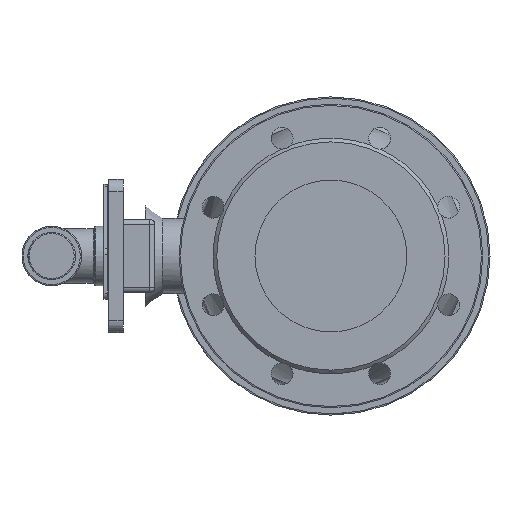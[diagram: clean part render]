
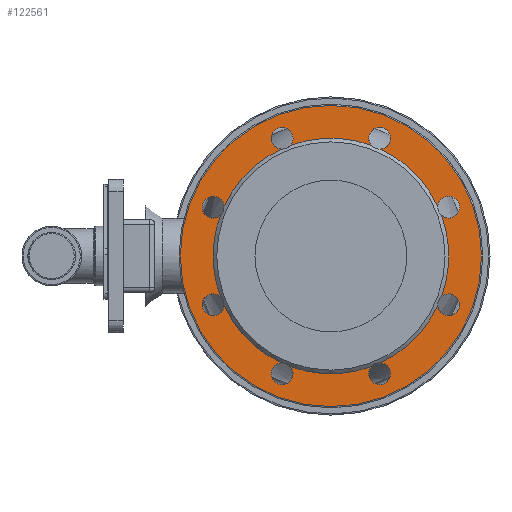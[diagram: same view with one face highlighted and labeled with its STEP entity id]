
A CAD part, left-side view. The second image highlights one B-rep face of the part: STEP entity #122561.
In plain terms, the highlighted planar face has unit normal (-1, 0, 0).
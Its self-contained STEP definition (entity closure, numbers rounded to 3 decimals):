
#122395=CARTESIAN_POINT('',(-150.0,-124.,0.));
#122396=VERTEX_POINT('',#122395);
#122397=CARTESIAN_POINT('',(-150.,0.,0.0));
#122398=DIRECTION('',(1.0,0.0,0.0));
#122399=DIRECTION('',(0.0,1.0,0.0));
#122400=AXIS2_PLACEMENT_3D('',#122397,#122398,#122399);
#122401=CIRCLE('',#122400,124.);
#122402=EDGE_CURVE('',#122396,#122396,#122401,.T.);
#122407=CARTESIAN_POINT('',(-150.0,-111.,0.0));
#122408=DIRECTION('',(-1.0,0.0,0.0));
#122409=DIRECTION('',(0.0,0.0,1.0));
#122410=AXIS2_PLACEMENT_3D('',#122407,#122408,#122409);
#122411=PLANE('',#122410);
#122412=ORIENTED_EDGE('',*,*,#122402,.F.);
#122413=EDGE_LOOP('',(#122412));
#122414=FACE_OUTER_BOUND('',#122413,.T.);
#122415=CARTESIAN_POINT('',(-150.,88.025,-40.75));
#122416=VERTEX_POINT('',#122415);
#122417=CARTESIAN_POINT('',(-150.,91.058,-33.429));
#122418=VERTEX_POINT('',#122417);
#122419=CARTESIAN_POINT('',(-150.,97.007,-40.182));
#122420=DIRECTION('',(1.0,0.0,0.0));
#122421=DIRECTION('',(0.0,0.0,-1.0));
#122422=AXIS2_PLACEMENT_3D('',#122419,#122420,#122421);
#122423=CIRCLE('',#122422,9.0);
#122424=EDGE_CURVE('',#122416,#122418,#122423,.T.);
#122425=ORIENTED_EDGE('',*,*,#122424,.T.);
#122426=CARTESIAN_POINT('',(-150.,91.058,33.429));
#122427=VERTEX_POINT('',#122426);
#122428=CARTESIAN_POINT('',(-150.,0.,0.0));
#122429=DIRECTION('',(-1.0,0.0,0.0));
#122430=DIRECTION('',(0.0,-1.0,0.0));
#122431=AXIS2_PLACEMENT_3D('',#122428,#122429,#122430);
#122432=CIRCLE('',#122431,97.);
#122433=EDGE_CURVE('',#122427,#122418,#122432,.T.);
#122434=ORIENTED_EDGE('',*,*,#122433,.F.);
#122435=CARTESIAN_POINT('',(-150.,88.025,40.75));
#122436=VERTEX_POINT('',#122435);
#122437=CARTESIAN_POINT('',(-150.,97.007,40.182));
#122438=DIRECTION('',(1.0,0.0,0.0));
#122439=DIRECTION('',(0.0,0.0,-1.0));
#122440=AXIS2_PLACEMENT_3D('',#122437,#122438,#122439);
#122441=CIRCLE('',#122440,9.0);
#122442=EDGE_CURVE('',#122427,#122436,#122441,.T.);
#122443=ORIENTED_EDGE('',*,*,#122442,.T.);
#122444=CARTESIAN_POINT('',(-150.,40.75,88.025));
#122445=VERTEX_POINT('',#122444);
#122446=CARTESIAN_POINT('',(-150.,0.,0.0));
#122447=DIRECTION('',(-1.0,0.0,0.0));
#122448=DIRECTION('',(0.0,-1.0,0.0));
#122449=AXIS2_PLACEMENT_3D('',#122446,#122447,#122448);
#122450=CIRCLE('',#122449,97.);
#122451=EDGE_CURVE('',#122445,#122436,#122450,.T.);
#122452=ORIENTED_EDGE('',*,*,#122451,.F.);
#122453=CARTESIAN_POINT('',(-150.,33.429,91.058));
#122454=VERTEX_POINT('',#122453);
#122455=CARTESIAN_POINT('',(-150.,40.182,97.007));
#122456=DIRECTION('',(1.0,0.0,0.0));
#122457=DIRECTION('',(0.0,0.0,-1.0));
#122458=AXIS2_PLACEMENT_3D('',#122455,#122456,#122457);
#122459=CIRCLE('',#122458,9.0);
#122460=EDGE_CURVE('',#122445,#122454,#122459,.T.);
#122461=ORIENTED_EDGE('',*,*,#122460,.T.);
#122462=CARTESIAN_POINT('',(-150.,-33.429,91.058));
#122463=VERTEX_POINT('',#122462);
#122464=CARTESIAN_POINT('',(-150.,0.,0.0));
#122465=DIRECTION('',(-1.0,0.0,0.0));
#122466=DIRECTION('',(0.0,-1.0,0.0));
#122467=AXIS2_PLACEMENT_3D('',#122464,#122465,#122466);
#122468=CIRCLE('',#122467,97.);
#122469=EDGE_CURVE('',#122463,#122454,#122468,.T.);
#122470=ORIENTED_EDGE('',*,*,#122469,.F.);
#122471=CARTESIAN_POINT('',(-150.,-40.75,88.025));
#122472=VERTEX_POINT('',#122471);
#122473=CARTESIAN_POINT('',(-150.,-40.182,97.007));
#122474=DIRECTION('',(1.0,0.0,0.0));
#122475=DIRECTION('',(0.0,0.0,-1.0));
#122476=AXIS2_PLACEMENT_3D('',#122473,#122474,#122475);
#122477=CIRCLE('',#122476,9.0);
#122478=EDGE_CURVE('',#122463,#122472,#122477,.T.);
#122479=ORIENTED_EDGE('',*,*,#122478,.T.);
#122480=CARTESIAN_POINT('',(-150.0,-88.025,40.75));
#122481=VERTEX_POINT('',#122480);
#122482=CARTESIAN_POINT('',(-150.,0.,0.0));
#122483=DIRECTION('',(-1.0,0.0,0.0));
#122484=DIRECTION('',(0.0,-1.0,0.0));
#122485=AXIS2_PLACEMENT_3D('',#122482,#122483,#122484);
#122486=CIRCLE('',#122485,97.);
#122487=EDGE_CURVE('',#122481,#122472,#122486,.T.);
#122488=ORIENTED_EDGE('',*,*,#122487,.F.);
#122489=CARTESIAN_POINT('',(-150.0,-91.058,33.429));
#122490=VERTEX_POINT('',#122489);
#122491=CARTESIAN_POINT('',(-150.0,-97.007,40.182));
#122492=DIRECTION('',(1.0,0.0,0.0));
#122493=DIRECTION('',(0.0,0.0,-1.0));
#122494=AXIS2_PLACEMENT_3D('',#122491,#122492,#122493);
#122495=CIRCLE('',#122494,9.0);
#122496=EDGE_CURVE('',#122481,#122490,#122495,.T.);
#122497=ORIENTED_EDGE('',*,*,#122496,.T.);
#122498=CARTESIAN_POINT('',(-150.0,-91.058,-33.429));
#122499=VERTEX_POINT('',#122498);
#122500=CARTESIAN_POINT('',(-150.,0.,0.0));
#122501=DIRECTION('',(-1.0,0.0,0.0));
#122502=DIRECTION('',(0.0,-1.0,0.0));
#122503=AXIS2_PLACEMENT_3D('',#122500,#122501,#122502);
#122504=CIRCLE('',#122503,97.);
#122505=EDGE_CURVE('',#122499,#122490,#122504,.T.);
#122506=ORIENTED_EDGE('',*,*,#122505,.F.);
#122507=CARTESIAN_POINT('',(-150.0,-88.025,-40.75));
#122508=VERTEX_POINT('',#122507);
#122509=CARTESIAN_POINT('',(-150.0,-97.007,-40.182));
#122510=DIRECTION('',(1.0,0.0,0.0));
#122511=DIRECTION('',(0.0,0.0,-1.0));
#122512=AXIS2_PLACEMENT_3D('',#122509,#122510,#122511);
#122513=CIRCLE('',#122512,9.0);
#122514=EDGE_CURVE('',#122499,#122508,#122513,.T.);
#122515=ORIENTED_EDGE('',*,*,#122514,.T.);
#122516=CARTESIAN_POINT('',(-150.,-40.75,-88.025));
#122517=VERTEX_POINT('',#122516);
#122518=CARTESIAN_POINT('',(-150.,0.,0.0));
#122519=DIRECTION('',(-1.0,0.0,0.0));
#122520=DIRECTION('',(0.0,-1.0,0.0));
#122521=AXIS2_PLACEMENT_3D('',#122518,#122519,#122520);
#122522=CIRCLE('',#122521,97.);
#122523=EDGE_CURVE('',#122517,#122508,#122522,.T.);
#122524=ORIENTED_EDGE('',*,*,#122523,.F.);
#122525=CARTESIAN_POINT('',(-150.,-33.429,-91.058));
#122526=VERTEX_POINT('',#122525);
#122527=CARTESIAN_POINT('',(-150.,-40.182,-97.007));
#122528=DIRECTION('',(1.0,0.0,0.0));
#122529=DIRECTION('',(0.0,0.0,-1.0));
#122530=AXIS2_PLACEMENT_3D('',#122527,#122528,#122529);
#122531=CIRCLE('',#122530,9.0);
#122532=EDGE_CURVE('',#122517,#122526,#122531,.T.);
#122533=ORIENTED_EDGE('',*,*,#122532,.T.);
#122534=CARTESIAN_POINT('',(-150.,33.429,-91.058));
#122535=VERTEX_POINT('',#122534);
#122536=CARTESIAN_POINT('',(-150.,0.,0.0));
#122537=DIRECTION('',(-1.0,0.0,0.0));
#122538=DIRECTION('',(0.0,-1.0,0.0));
#122539=AXIS2_PLACEMENT_3D('',#122536,#122537,#122538);
#122540=CIRCLE('',#122539,97.);
#122541=EDGE_CURVE('',#122535,#122526,#122540,.T.);
#122542=ORIENTED_EDGE('',*,*,#122541,.F.);
#122543=CARTESIAN_POINT('',(-150.,40.75,-88.025));
#122544=VERTEX_POINT('',#122543);
#122545=CARTESIAN_POINT('',(-150.,40.182,-97.007));
#122546=DIRECTION('',(1.0,0.0,0.0));
#122547=DIRECTION('',(0.0,0.0,-1.0));
#122548=AXIS2_PLACEMENT_3D('',#122545,#122546,#122547);
#122549=CIRCLE('',#122548,9.0);
#122550=EDGE_CURVE('',#122535,#122544,#122549,.T.);
#122551=ORIENTED_EDGE('',*,*,#122550,.T.);
#122552=CARTESIAN_POINT('',(-150.,0.,0.0));
#122553=DIRECTION('',(-1.0,0.0,0.0));
#122554=DIRECTION('',(0.0,-1.0,0.0));
#122555=AXIS2_PLACEMENT_3D('',#122552,#122553,#122554);
#122556=CIRCLE('',#122555,97.);
#122557=EDGE_CURVE('',#122416,#122544,#122556,.T.);
#122558=ORIENTED_EDGE('',*,*,#122557,.F.);
#122559=EDGE_LOOP('',(#122425,#122434,#122443,#122452,#122461,#122470,#122479,#122488,#122497,#122506,#122515,#122524,#122533,#122542,#122551,#122558));
#122560=FACE_BOUND('',#122559,.T.);
#122561=ADVANCED_FACE('',(#122414,#122560),#122411,.T.);
